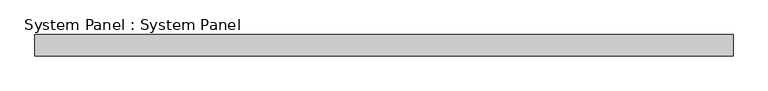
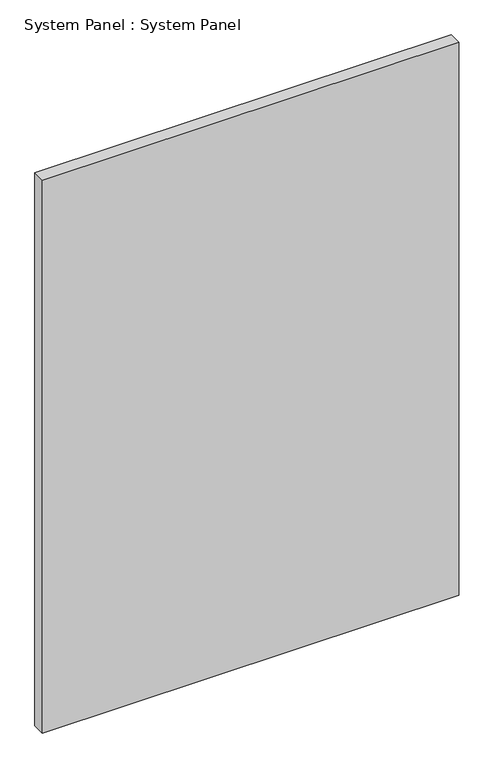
"""IFC4 building model written with IfcOpenShell, lengths in millimetres: plate geometry, System Panel : System Panel."""

from ifc_helpers import new_model, si_unit, origin, origin_with_axes, place, context, project, spatial, polyline, outline, extrude, source, transform, mapped, element, save


def system_panel_system_panel_567afef9(model_context):
    return source(origin(), model_context, "Body", "SweptSolid", [
        extrude(outline(polyline([(1659.872753, -50.8), (-1659.872753, -50.8), (-1659.872753, 50.8), (1659.872753, 50.8), (1659.872753, -50.8)])), origin_with_axes(), (0.0, 0.0, 1.0), 4660.9),
    ])


if __name__ == "__main__":
    model = new_model("IFC4")
    model_context = context("Model", 3, world=origin())
    ifc_project = project(units=[si_unit("LENGTHUNIT", "METRE", prefix="MILLI")], contexts=[model_context])
    site = spatial("IfcSite", under=ifc_project)
    building = spatial("IfcBuilding", under=site)
    placement = place(None, origin())
    system_panel_system_panel_shape = system_panel_system_panel_567afef9(model_context)
    element("IfcPlate", 1, ObjectType="System Panel : System Panel", at=placement, inside=building, context=model_context, shape_type="MappedRepresentation", body=[
        mapped(system_panel_system_panel_shape, transform((0.0, 0.0, 0.0), x_axis=(1.0, 0.0, 0.0), y_axis=(0.0, 1.0, 0.0), z_axis=(0.0, 0.0, 1.0))),
    ])
    save(model, "model.ifc")
